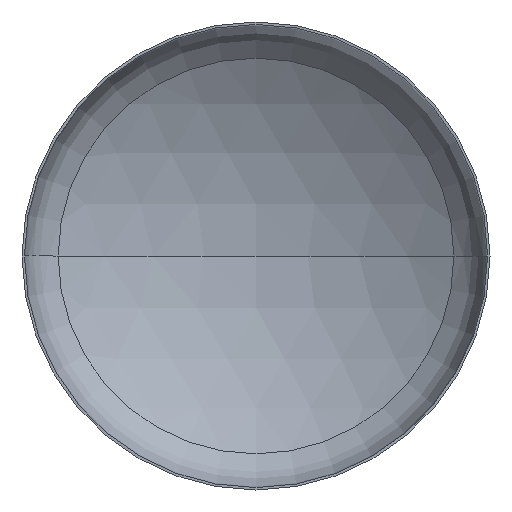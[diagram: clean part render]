
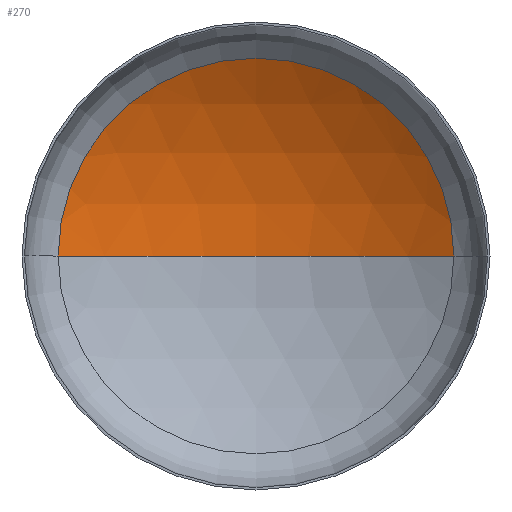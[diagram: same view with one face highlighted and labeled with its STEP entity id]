
A CAD part, front view. The second image highlights one B-rep face of the part: STEP entity #270.
In plain terms, the highlighted spherical face has radius 1520 mm.
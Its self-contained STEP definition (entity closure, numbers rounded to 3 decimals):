
#10 = CARTESIAN_POINT ( 'NONE',  ( 0., -1014.222, 0. ) ) ;
#20 = AXIS2_PLACEMENT_3D ( 'NONE', #235, #133, #126 ) ;
#23 = AXIS2_PLACEMENT_3D ( 'NONE', #10, #161, #355 ) ;
#30 = ORIENTED_EDGE ( 'NONE', *, *, #280, .F. ) ;
#32 = VERTEX_POINT ( 'NONE', #283 ) ;
#96 = CARTESIAN_POINT ( 'NONE',  ( 0., -1014.222, 0. ) ) ;
#126 = DIRECTION ( 'NONE',  ( 1., 0., 0. ) ) ;
#130 = VERTEX_POINT ( 'NONE', #351 ) ;
#132 = DIRECTION ( 'NONE',  ( 0., -1., 0. ) ) ;
#133 = DIRECTION ( 'NONE',  ( 0., 0., 1. ) ) ;
#161 = DIRECTION ( 'NONE',  ( 0., 0., -1. ) ) ;
#173 = VERTEX_POINT ( 'NONE', #294 ) ;
#189 = ORIENTED_EDGE ( 'NONE', *, *, #356, .T. ) ;
#193 = SPHERICAL_SURFACE ( 'NONE', #23, 1520. ) ;
#205 = FACE_OUTER_BOUND ( 'NONE', #390, .T. ) ;
#229 = DIRECTION ( 'NONE',  ( 0., 0., -1. ) ) ;
#235 = CARTESIAN_POINT ( 'NONE',  ( 0., -1014.222, 0. ) ) ;
#246 = ORIENTED_EDGE ( 'NONE', *, *, #379, .T. ) ;
#270 = ADVANCED_FACE ( 'NONE', ( #205 ), #193, .F. ) ;
#280 = EDGE_CURVE ( 'NONE', #130, #32, #397, .T. ) ;
#283 = CARTESIAN_POINT ( 'NONE',  ( -803.252, 276.199, 0. ) ) ;
#294 = CARTESIAN_POINT ( 'NONE',  ( 803.252, 276.199, 0. ) ) ;
#301 = CIRCLE ( 'NONE', #328, 803.252 ) ;
#304 = CARTESIAN_POINT ( 'NONE',  ( 0., 276.199, 0. ) ) ;
#328 = AXIS2_PLACEMENT_3D ( 'NONE', #304, #132, #337 ) ;
#337 = DIRECTION ( 'NONE',  ( 1., 0., 0. ) ) ;
#351 = CARTESIAN_POINT ( 'NONE',  ( 0., 505.778, 0. ) ) ;
#355 = DIRECTION ( 'NONE',  ( -1., 0., 0. ) ) ;
#356 = EDGE_CURVE ( 'NONE', #173, #32, #301, .T. ) ;
#372 = AXIS2_PLACEMENT_3D ( 'NONE', #96, #229, #409 ) ;
#374 = CIRCLE ( 'NONE', #372, 1520. ) ;
#379 = EDGE_CURVE ( 'NONE', #130, #173, #374, .T. ) ;
#390 = EDGE_LOOP ( 'NONE', ( #30, #246, #189 ) ) ;
#397 = CIRCLE ( 'NONE', #20, 1520. ) ;
#409 = DIRECTION ( 'NONE',  ( -1., 0., 0. ) ) ;
